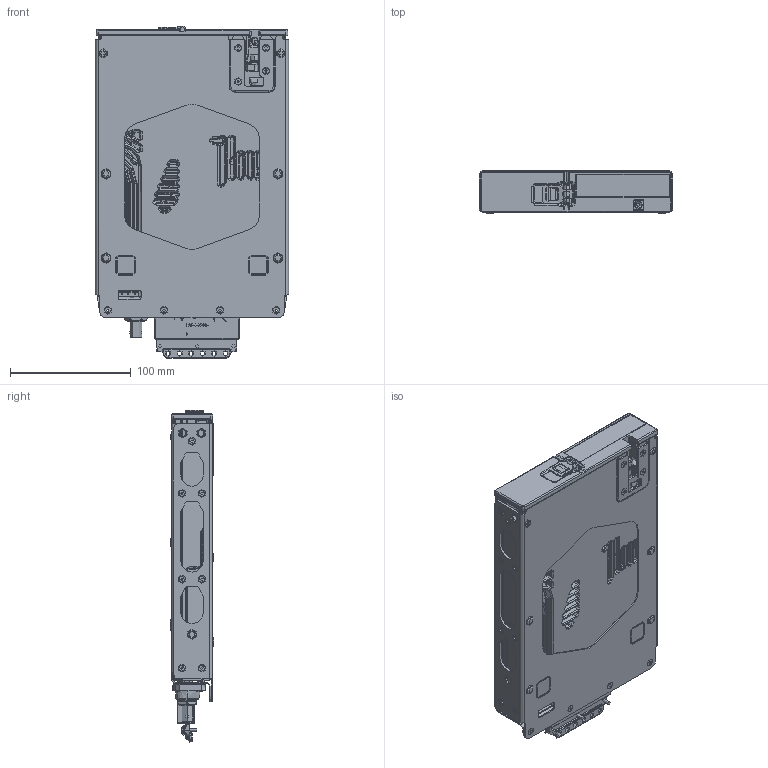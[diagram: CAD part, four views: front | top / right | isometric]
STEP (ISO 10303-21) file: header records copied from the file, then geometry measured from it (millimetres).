
FILE_DESCRIPTION (( 'STEP AP203' ), '1' );
FILE_NAME ('GTR205R_011-05288-00_R[115-04497-00]_B[011-05691-00]_C[011-05779-10]_Rev1.STEP', '2024-09-23T15:01:15', ( '' ), ( '' ), 'SwSTEP 2.0', 'SolidWorks 2023', '' );
FILE_SCHEMA (( 'CONFIG_CONTROL_DESIGN' ));
Products named in the file (1): GTR205R_011-05288-00_R[115-04497-00]_B[011-05691-00]_C[011-05779-10]_Rev1
Bounding box: 160.02 x 36.2 x 274.98 mm (x, y, z)
Topology: 6 solids, 23 shells, 7064 faces, 16776 edges, 9917 vertices
Faces by surface type: cylinder 2110, plane 1694, bspline 1597, torus 680, cone 565, sphere 418
Full cylindrical faces by diameter (mm): 0.508 x1
Entity records: 263884 total; most frequent: CARTESIAN_POINT 112245, ORIENTED_EDGE 33088, DIRECTION 30520, EDGE_CURVE 16544, AXIS2_PLACEMENT_3D 12381, VERTEX_POINT 9915, EDGE_LOOP 7613, ADVANCED_FACE 7063
